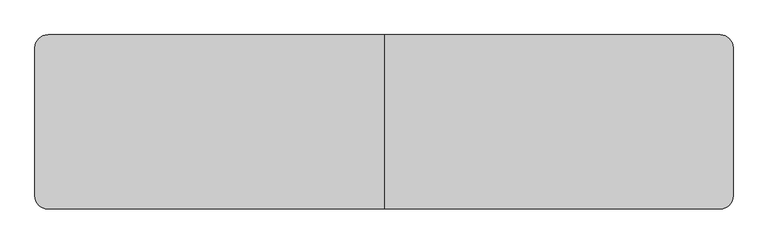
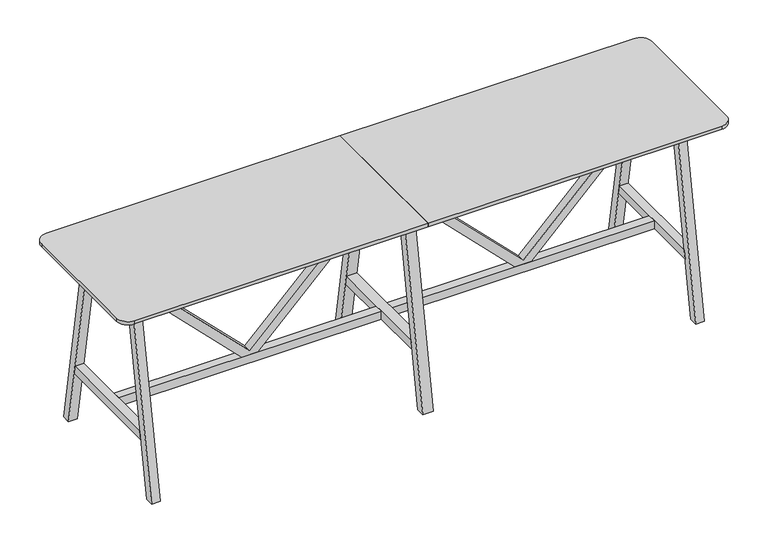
"""IFC4 building model written with IfcOpenShell, lengths in millimetres: furniture geometry, BDG_BossDesign_Tbls_AgentTables6Legs : AGE-HT-6L-3200-800-3D."""

from ifc_helpers import new_model, si_unit, point, frame, frame_2d, origin, place, context, project, spatial, polyline, circle_curve, trimmed, segment, composite_curve, outline, extrude, source, transform, mapped, element, save


def furniture_782106a6(model_context):
    return source(origin(), model_context, "Body", "SweptSolid", [
        extrude(outline(polyline([(345.0, 674.0823957), (345.0, 758.4176043), (992.0, 1405.0), (1032.0, 1405.0), (1032.0, 1385.0), (365.0, 716.25), (1032.0, 47.5), (1032.0, 27.5), (992.0, 27.5), (345.0, 674.0823957)])), frame((0.0, -22.5000305, 0.0), z_axis=(0.0, 1.0, 0.0), x_axis=(0.0, 0.0, 1.0)), (0.0, 0.0, 1.0), 45.000061),
        extrude(outline(polyline([(345.0, -674.0823957), (992.0, -27.5), (1032.0, -27.5), (1032.0, -47.5), (365.0, -716.25), (1032.0, -1385.0), (1032.0, -1405.0), (992.0, -1405.0), (345.0, -758.4176043), (345.0, -674.0823957)])), frame((0.0, -22.5000305, 0.0), z_axis=(0.0, 1.0, 0.0), x_axis=(0.0, 0.0, 1.0)), (0.0, 0.0, 1.0), 45.000061),
        extrude(outline(polyline([(400.0, 0.0), (354.9999949, 0.0), (185.5, 970.0), (230.5000051, 970.0), (400.0, 0.0)])), frame((-27.5, 0.0, 0.0), z_axis=(1.0, 0.0, 0.0), x_axis=(0.0, 1.0, 0.0)), (0.0, 0.0, 1.0), 55.0),
        extrude(outline(polyline([(-400.0, 0.0), (-230.5000051, 970.0), (-185.5, 970.0), (-354.9999949, 0.0), (-400.0, 0.0)])), frame((-27.5, 0.0, 0.0), z_axis=(1.0, 0.0, 0.0), x_axis=(0.0, 1.0, 0.0)), (0.0, 0.0, 1.0), 55.0),
        extrude(outline(polyline([(302.5773161, 300.0), (-302.5773161, 300.0), (-294.7139143, 345.0), (294.7139143, 345.0), (302.5773161, 300.0)])), frame((-27.5, 0.0, 0.0), z_axis=(1.0, 0.0, 0.0), x_axis=(0.0, 1.0, 0.0)), (0.0, 0.0, 1.0), 55.0),
        extrude(outline(composite_curve([segment(polyline([(0.0, 400.0), (0.0, -400.0), (-1540.0, -400.0)]), True, "CONTINUOUS"), segment(trimmed(circle_curve(frame_2d((-1540.0, -340.0)), 60.0), [point((-1540.0, -400.0))], [point((-1600.0, -340.0))], False, "CARTESIAN"), True, "CONTINUOUS"), segment(polyline([(-1600.0, -340.0), (-1600.0, 340.0)]), True, "CONTINUOUS"), segment(trimmed(circle_curve(frame_2d((-1540.0, 340.0)), 60.0), [point((-1600.0, 340.0))], [point((-1540.0, 400.0))], False, "CARTESIAN"), True, "CONTINUOUS"), segment(polyline([(-1540.0, 400.0), (0.0, 400.0)]), True, "CONTINUOUS")], self_intersect=False)), frame((0.0, 0.0, 1032.0), z_axis=(0.0, 0.0, 1.0), x_axis=(1.0, 0.0, 0.0)), (0.0, 0.0, 1.0), 18.0),
        extrude(outline(polyline([(-294.7139143, 345.0), (294.7139143, 345.0), (302.5773161, 300.0), (-302.5773161, 300.0), (-294.7139143, 345.0)])), frame((1405.0, 0.0, 0.0), z_axis=(1.0, 0.0, 0.0), x_axis=(0.0, 1.0, 0.0)), (0.0, 0.0, 1.0), 45.0),
        extrude(outline(polyline([(400.0, 0.0), (354.9999949, 0.0), (185.5, 970.0), (230.5000051, 970.0), (400.0, 0.0)])), frame((-1450.0, 0.0, 0.0), z_axis=(1.0, 0.0, 0.0), x_axis=(0.0, 1.0, 0.0)), (0.0, 0.0, 1.0), 45.0),
        extrude(outline(polyline([(-400.0, 0.0), (-230.5000051, 970.0), (-185.5, 970.0), (-354.9999949, 0.0), (-400.0, 0.0)])), frame((-1450.0, 0.0, 0.0), z_axis=(1.0, 0.0, 0.0), x_axis=(0.0, 1.0, 0.0)), (0.0, 0.0, 1.0), 45.0),
        extrude(outline(polyline([(-294.7139143, 345.0), (294.7139143, 345.0), (302.5773161, 300.0), (-302.5773161, 300.0), (-294.7139143, 345.0)])), frame((-1450.0, 0.0, 0.0), z_axis=(1.0, 0.0, 0.0), x_axis=(0.0, 1.0, 0.0)), (0.0, 0.0, 1.0), 45.0),
        extrude(outline(polyline([(-226.6006165, 944.973938), (-204.2770691, 1032.0), (-179.5, 1032.0), (-201.8235474, 944.973938), (-226.6006165, 944.973938)])), frame((-1405.0, 0.0, 0.0), z_axis=(1.0, 0.0, 0.0), x_axis=(0.0, 1.0, 0.0)), (0.0, 0.0, 1.0), 2810.0),
        extrude(outline(polyline([(226.6006165, 944.973938), (201.8235474, 944.973938), (179.5, 1032.0), (204.2770691, 1032.0), (226.6006165, 944.973938)])), frame((-1405.0, 0.0, 0.0), z_axis=(1.0, 0.0, 0.0), x_axis=(0.0, 1.0, 0.0)), (0.0, 0.0, 1.0), 2810.0),
        extrude(outline(polyline([(399.7999878, 0.0), (354.7999827, 0.0), (185.5, 970.0), (230.5000051, 970.0), (399.7999878, 0.0)])), frame((1405.0, 0.0, 0.0), z_axis=(1.0, 0.0, 0.0), x_axis=(0.0, 1.0, 0.0)), (0.0, 0.0, 1.0), 45.0),
        extrude(outline(polyline([(-399.7999878, 0.0), (-230.5000051, 970.0), (-185.5, 970.0), (-354.7999827, 0.0), (-399.7999878, 0.0)])), frame((1405.0, 0.0, 0.0), z_axis=(1.0, 0.0, 0.0), x_axis=(0.0, 1.0, 0.0)), (0.0, 0.0, 1.0), 45.0),
        extrude(outline(polyline([(-27.5, 22.5000305), (-27.5, -22.5000305), (-1405.0, -22.5000305), (-1405.0, 22.5000305), (-27.5, 22.5000305)])), frame((0.0, 0.0, 300.0), z_axis=(0.0, 0.0, 1.0), x_axis=(1.0, 0.0, 0.0)), (0.0, 0.0, 1.0), 45.0),
        extrude(outline(polyline([(27.5, -22.5000305), (27.5, 22.5000305), (1405.0, 22.5000305), (1405.0, -22.5000305), (27.5, -22.5000305)])), frame((0.0, 0.0, 300.0), z_axis=(0.0, 0.0, 1.0), x_axis=(1.0, 0.0, 0.0)), (0.0, 0.0, 1.0), 45.0),
        extrude(outline(composite_curve([segment(trimmed(circle_curve(frame_2d((1540.0, 340.0)), 60.0), [point((1540.0, 400.0))], [point((1600.0, 340.0))], False, "CARTESIAN"), True, "CONTINUOUS"), segment(polyline([(1600.0, 340.0), (1600.0, -340.0)]), True, "CONTINUOUS"), segment(trimmed(circle_curve(frame_2d((1540.0, -340.0)), 60.0), [point((1600.0, -340.0))], [point((1540.0, -400.0))], False, "CARTESIAN"), True, "CONTINUOUS"), segment(polyline([(1540.0, -400.0), (0.0, -400.0), (0.0, 400.0), (1540.0, 400.0)]), True, "CONTINUOUS")], self_intersect=False)), frame((0.0, 0.0, 1032.0), z_axis=(0.0, 0.0, 1.0), x_axis=(1.0, 0.0, 0.0)), (0.0, 0.0, 1.0), 18.0),
    ])


if __name__ == "__main__":
    model = new_model("IFC4")
    model_context = context("Model", 3, world=origin())
    ifc_project = project(units=[si_unit("LENGTHUNIT", "METRE", prefix="MILLI")], contexts=[model_context])
    site = spatial("IfcSite", under=ifc_project)
    building = spatial("IfcBuilding", under=site)
    placement = place(None, origin())
    furniture_shape = furniture_782106a6(model_context)
    element("IfcFurniture", 1, ObjectType="BDG_BossDesign_Tbls_AgentTables6Legs : AGE-HT-6L-3200-800-3D", at=placement, inside=building, context=model_context, shape_type="MappedRepresentation", body=[
        mapped(furniture_shape, transform((0.0, 0.0, 0.0), x_axis=(1.0, 0.0, 0.0), y_axis=(0.0, 1.0, 0.0), z_axis=(0.0, 0.0, 1.0))),
    ])
    save(model, "model.ifc")
